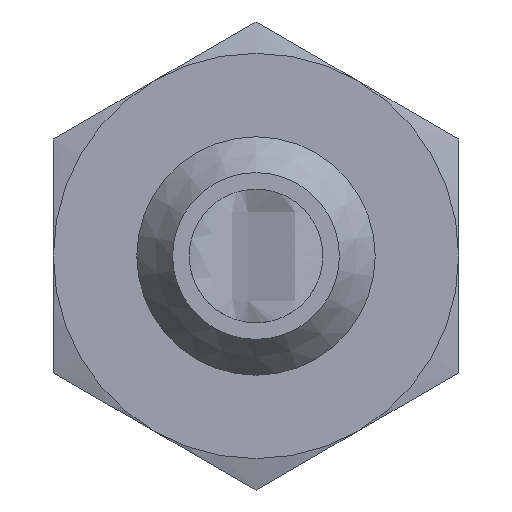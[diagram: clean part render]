
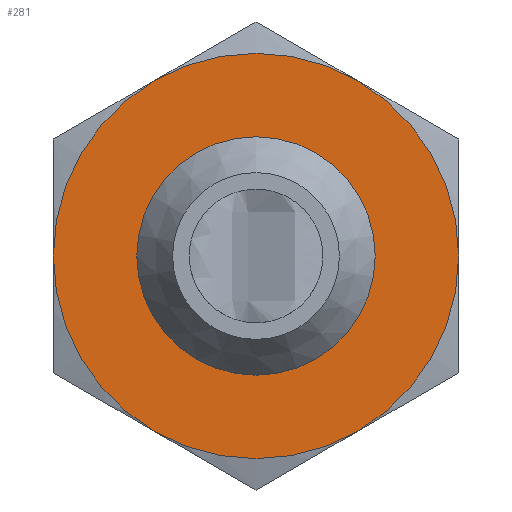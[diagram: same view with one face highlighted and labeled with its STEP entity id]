
A CAD part, front view. The second image highlights one B-rep face of the part: STEP entity #281.
In plain terms, the highlighted planar face has unit normal (0, -1, 0).
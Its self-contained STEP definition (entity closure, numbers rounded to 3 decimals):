
#281=ADVANCED_FACE('',(#342),#307,.T.);
#307=PLANE('',#844);
#342=FACE_OUTER_BOUND('',#400,.T.);
#400=EDGE_LOOP('',(#532,#533,#534,#535,#536,#537));
#532=ORIENTED_EDGE('',*,*,#723,.T.);
#533=ORIENTED_EDGE('',*,*,#720,.T.);
#534=ORIENTED_EDGE('',*,*,#717,.T.);
#535=ORIENTED_EDGE('',*,*,#713,.T.);
#536=ORIENTED_EDGE('',*,*,#724,.T.);
#537=ORIENTED_EDGE('',*,*,#711,.T.);
#634=VERTEX_POINT('',#1297);
#636=VERTEX_POINT('',#1302);
#638=VERTEX_POINT('',#1309);
#639=VERTEX_POINT('',#1311);
#640=VERTEX_POINT('',#1319);
#642=VERTEX_POINT('',#1329);
#711=EDGE_CURVE('',#634,#636,#771,.T.);
#713=EDGE_CURVE('',#639,#638,#772,.T.);
#717=EDGE_CURVE('',#640,#639,#773,.T.);
#720=EDGE_CURVE('',#642,#640,#774,.T.);
#723=EDGE_CURVE('',#636,#642,#775,.T.);
#724=EDGE_CURVE('',#638,#634,#776,.T.);
#771=CIRCLE('',#833,8.5);
#772=CIRCLE('',#835,8.5);
#773=CIRCLE('',#837,8.5);
#774=CIRCLE('',#839,8.5);
#775=CIRCLE('',#841,8.5);
#776=CIRCLE('',#843,8.5);
#833=AXIS2_PLACEMENT_3D('',#1303,#972,#973);
#835=AXIS2_PLACEMENT_3D('',#1310,#976,#977);
#837=AXIS2_PLACEMENT_3D('',#1324,#980,#981);
#839=AXIS2_PLACEMENT_3D('',#1334,#984,#985);
#841=AXIS2_PLACEMENT_3D('',#1343,#988,#989);
#843=AXIS2_PLACEMENT_3D('',#1345,#992,#993);
#844=AXIS2_PLACEMENT_3D('',#1346,#994,#995);
#972=DIRECTION('',(0.,-1.,0.));
#973=DIRECTION('',(0.5,0.,-0.866));
#976=DIRECTION('',(0.,-1.,0.));
#977=DIRECTION('',(-1.,0.,0.));
#980=DIRECTION('',(0.,-1.,0.));
#981=DIRECTION('',(-0.5,0.,0.866));
#984=DIRECTION('',(0.,-1.,0.));
#985=DIRECTION('',(0.5,0.,0.866));
#988=DIRECTION('',(0.,-1.,0.));
#989=DIRECTION('',(1.,0.,0.));
#992=DIRECTION('',(0.,-1.,0.));
#993=DIRECTION('',(-0.5,0.,-0.866));
#994=DIRECTION('',(0.,-1.,0.));
#995=DIRECTION('',(0.,0.,1.));
#1297=CARTESIAN_POINT('',(4.25,-27.,-7.361));
#1302=CARTESIAN_POINT('',(8.5,-27.,0.));
#1303=CARTESIAN_POINT('',(0.,-27.,0.));
#1309=CARTESIAN_POINT('',(-4.25,-27.,-7.361));
#1310=CARTESIAN_POINT('',(0.,-27.,0.));
#1311=CARTESIAN_POINT('',(-8.5,-27.,0.));
#1319=CARTESIAN_POINT('',(-4.25,-27.,7.361));
#1324=CARTESIAN_POINT('',(0.,-27.,0.));
#1329=CARTESIAN_POINT('',(4.25,-27.,7.361));
#1334=CARTESIAN_POINT('',(0.,-27.,0.));
#1343=CARTESIAN_POINT('',(0.,-27.,0.));
#1345=CARTESIAN_POINT('',(0.,-27.,0.));
#1346=CARTESIAN_POINT('',(9.35,-27.,-9.35));
